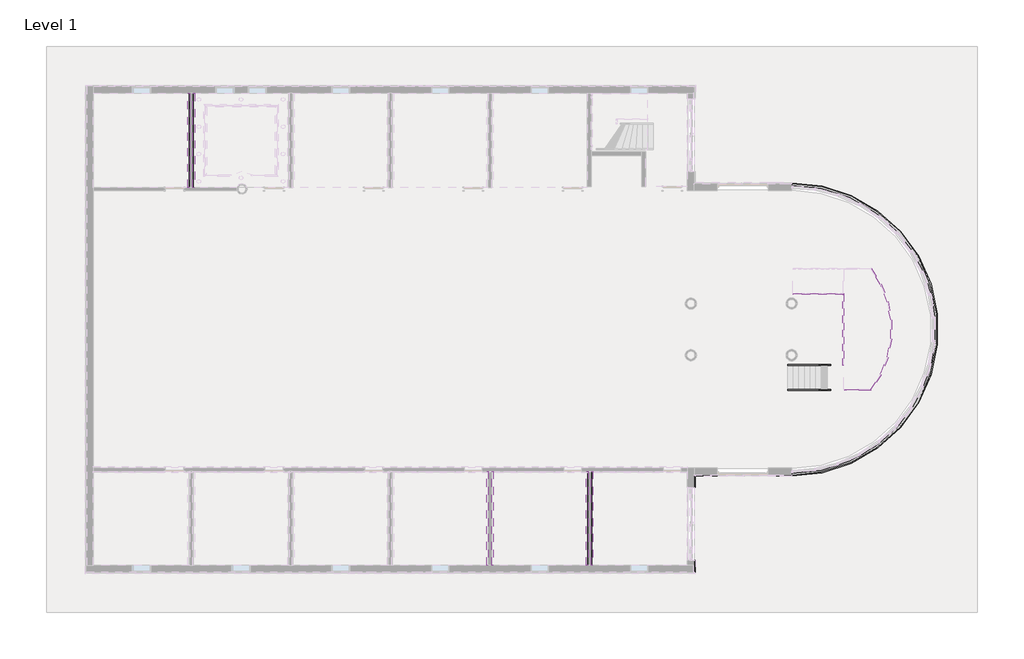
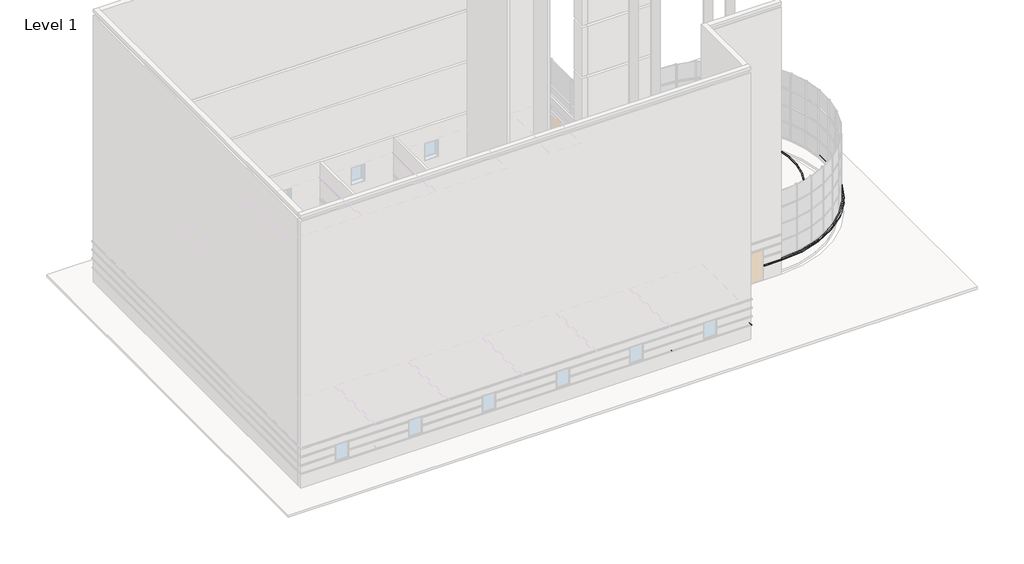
# One storey, part 18 of 20: 21 proxies, 6 members.
"""IFC4 building model written with IfcOpenShell, lengths in millimetres."""

from ifc_helpers import new_model, si_unit, point, frame, frame_2d, origin, place, context, project, spatial, polyline, circle_curve, trimmed, segment, composite_curve, outline, extrude, faceted_brep, element, save
from ifc_brep_helpers import plane_surface, cylinder_surface, revolved_surface, advanced_brep

model = new_model("IFC4")

# Units and contexts
model_context = context("Model", 3, world=origin())
ifc_project = project(units=[si_unit("LENGTHUNIT", "METRE", prefix="MILLI")], contexts=[model_context])

# Site, building, storey
site = spatial("IfcSite", under=ifc_project)
building = spatial("IfcBuilding", under=site)
storey = spatial("IfcBuildingStorey", under=building, Name="Level 1", Elevation=0.0)

# Proxies
placement = place(None, origin())
element("IfcBuildingElementProxy", 1, Name="Wall Sweeps", at=placement, inside=storey, context=model_context, shape_type="Brep", body=[
    faceted_brep([(12969.0589721, -14605.7351681, 1085.85), (12969.0589721, -14605.7351681, 1016.0), (13096.0589721, -14732.7351681, 1016.0), (13096.0589721, -14732.7351681, 1041.4), (13061.1339721, -14697.8101681, 1085.85), (12969.0589721, -14088.2101681, 1085.85), (13061.1339721, -14088.2101681, 1085.85), (13096.0589721, -14088.2101681, 1041.4), (13096.0589721, -14088.2101681, 1016.0), (13061.1339721, -14088.2101681, 1016.0), (12969.0589721, -14088.2101681, 1016.0), (12969.0589721, -14345.3851681, 1085.85), (12969.0589721, -14345.3851681, 1016.0)], [[[0, 1, 2, 3, 4]], [[5, 6, 7, 8, 9, 10]], [[0, 4, 6, 5, 11]], [[4, 3, 7, 6]], [[3, 2, 8, 7]], [[2, 1, 12, 10, 9, 8]], [[1, 0, 11, 5, 10, 12]]]),
    faceted_brep([(12969.0589721, -10430.6101681, 1085.85), (12969.0589721, -10430.6101681, 1016.0), (13061.1339721, -10430.6101681, 1016.0), (13096.0589721, -10430.6101681, 1016.0), (13096.0589721, -10430.6101681, 1041.4), (13061.1339721, -10430.6101681, 1085.85), (12969.0589721, -9728.9351681, 1085.85), (13061.1339721, -9821.0101681, 1085.85), (13096.0589721, -9855.9351681, 1041.4), (13096.0589721, -9855.9351681, 1016.0), (12969.0589721, -9728.9351681, 1016.0)], [[[0, 1, 2, 3, 4, 5]], [[6, 7, 8, 9, 10]], [[1, 0, 6, 10]], [[3, 2, 1, 10, 9]], [[4, 3, 9, 8]], [[5, 4, 8, 7]], [[0, 5, 7, 6]]]),
])
element("IfcBuildingElementProxy", 2, Name="Wall Sweeps", at=placement, inside=storey, context=model_context, shape_type="Brep", body=[
    faceted_brep([(12969.0589721, -9728.9351681, 1085.85), (12969.0589721, -9728.9351681, 1016.0), (13096.0589721, -9855.9351681, 1016.0), (13096.0589721, -9855.9351681, 1041.4), (13061.1339721, -9821.0101681, 1085.85), (14220.0089721, -9728.9351681, 1085.85), (14220.0089721, -9821.0101681, 1085.85), (14220.0089721, -9855.9351681, 1041.4), (14220.0089721, -9855.9351681, 1016.0), (14220.0089721, -9821.0101681, 1016.0), (14220.0089721, -9728.9351681, 1016.0), (13061.1339721, -9728.9351681, 1085.85), (13061.1339721, -9728.9351681, 1016.0)], [[[0, 1, 2, 3, 4]], [[5, 6, 7, 8, 9, 10]], [[0, 4, 6, 5, 11]], [[4, 3, 7, 6]], [[3, 2, 8, 7]], [[2, 1, 12, 10, 9, 8]], [[1, 0, 11, 5, 10, 12]]]),
    faceted_brep([(16760.0089721, -9728.9351681, 1085.85), (16760.0089721, -9728.9351681, 1016.0), (16760.0089721, -9821.0101681, 1016.0), (16760.0089721, -9855.9351681, 1016.0), (16760.0089721, -9855.9351681, 1041.4), (16760.0089721, -9821.0101681, 1085.85), (17937.9339721, -9728.9351681, 1085.85), (17937.9339721, -9821.0101681, 1085.85), (17937.9339721, -9855.9351681, 1041.4), (17937.9339721, -9855.9351681, 1016.0), (17937.9339721, -9821.0101681, 1016.0), (17937.9339721, -9728.9351681, 1016.0)], [[[0, 1, 2, 3, 4, 5]], [[6, 7, 8, 9, 10, 11]], [[1, 0, 6, 11]], [[3, 2, 1, 11, 10, 9]], [[4, 3, 9, 8]], [[5, 4, 8, 7]], [[0, 5, 7, 6]]]),
])
element("IfcBuildingElementProxy", 3, Name="Wall Sweeps", at=placement, inside=storey, context=model_context, shape_type="AdvancedBrep", body=[
    advanced_brep(
    [(17937.9339721, -9821.0101681, 1085.85), (17937.9339721, 4809.3898319, 1085.85), (17937.9339721, 4717.3148319, 1085.85), (17937.9339721, -9728.9351681, 1085.85), (17937.9339721, -9855.9351681, 1041.4), (17937.9339721, 4844.3148319, 1041.4), (17937.9339721, -9855.9351681, 1016.0), (17937.9339721, 4844.3148319, 1016.0), (17937.9339721, -9728.9351681, 1016.0), (17937.9339721, 4717.3148319, 1016.0), (17937.9339721, 4809.3898319, 1016.0), (17937.9339721, -9821.0101681, 1016.0)],
    [
        (0, 1, circle_curve(frame((17937.9339721, -2505.8101681, 1085.85), z_axis=(0.0, 0.0, 1.0), x_axis=(0.0, 1.0, 0.0)), 7315.2)),
        (1, 2),
        (2, 3, circle_curve(frame((17937.9339721, -2505.8101681, 1085.85), z_axis=(0.0, 0.0, -1.0), x_axis=(0.0, 1.0, 0.0)), 7223.125)),
        (3, 0),
        (4, 5, circle_curve(frame((17937.9339721, -2505.8101681, 1041.4), z_axis=(0.0, 0.0, 1.0), x_axis=(0.0, 1.0, 0.0)), 7350.125)),
        (5, 1),
        (0, 4),
        (6, 7, circle_curve(frame((17937.9339721, -2505.8101681, 1016.0), z_axis=(0.0, 0.0, 1.0), x_axis=(0.0, 1.0, 0.0)), 7350.125)),
        (7, 5),
        (4, 6),
        (8, 9, circle_curve(frame((17937.9339721, -2505.8101681, 1016.0), z_axis=(0.0, 0.0, 1.0), x_axis=(0.0, 1.0, 0.0)), 7223.125)),
        (9, 10),
        (10, 7),
        (6, 11),
        (11, 8),
        (2, 9),
        (8, 3),
    ],
    [
        plane_surface(frame((17937.9339721, -2505.8101681, 1085.85), z_axis=(0.0, 0.0, 1.0), x_axis=(0.0, 1.0, 0.0))),
        revolved_surface(polyline([(17937.9339721, 4809.3898319, 1085.85), (17937.9339721, 4844.3148319, 1041.4)]), (17937.9339721, -2505.8101681, 1016.0), (0.0, 0.0, -1.0)),
        cylinder_surface(frame((17937.9339721, -2505.8101681, 1016.0), z_axis=(0.0, 0.0, -1.0), x_axis=(0.0, 1.0, 0.0)), 7350.125),
        plane_surface(frame((17937.9339721, -2505.8101681, 1016.0), z_axis=(0.0, 0.0, -1.0), x_axis=(0.0, 1.0, 0.0))),
        revolved_surface(polyline([(17937.9339721, 4717.3148319, 1016.0), (17937.9339721, 4717.3148319, 1085.85)]), (17937.9339721, -2505.8101681, 1016.0), (0.0, 0.0, -1.0)),
        plane_surface(frame((17937.9339721, 5114.1898319, 1016.0), z_axis=(-1.0, 0.0, 0.0), x_axis=(0.0, 0.0, 1.0))),
        plane_surface(frame((17937.9339721, -10125.8101681, 1016.0), z_axis=(-1.0, 0.0, 0.0), x_axis=(0.0, 0.0, 1.0))),
    ],
    [
        (0, [[1, 2, 3, 4]]),
        (1, [[5, 6, -1, 7]]),
        (2, [[8, 9, -5, 10]]),
        (3, [[11, 12, 13, -8, 14, 15]]),
        (4, [[-3, 16, -11, 17]]),
        (5, [[-2, -6, -9, -13, -12, -16]]),
        (6, [[-17, -15, -14, -10, -7, -4]]),
    ],
),
])
element("IfcBuildingElementProxy", 4, Name="Wall Sweeps", at=placement, inside=storey, context=model_context, shape_type="SweptSolid", body=[
    extrude(outline(composite_curve([segment(polyline([(146.05, -12256.8451947), (0.0, -12256.8451947), (0.0, -12240.9701946), (25.4, -12240.9701946), (26.9875, -12242.5576946), (138.1125, -12242.5576946), (139.7, -12240.9701946), (184.15, -12240.9701946), (184.15, -12247.3201946), (178.4425393, -12249.7662491)]), True, "CONTINUOUS"), segment(trimmed(circle_curve(frame_2d((173.434375, -12253.6701946)), 6.35), [point((178.4425393, -12249.7662491))], [point((169.9015472, -12248.3936779))], True, "CARTESIAN"), True, "CONTINUOUS"), segment(polyline([(169.9015472, -12248.3936779), (159.8244174, -12255.2349707)]), True, "CONTINUOUS"), segment(trimmed(circle_curve(frame_2d((154.447453, -12247.3201946)), 9.5684601), [point((159.8244174, -12255.2349707))], [point((147.838329, -12254.2393642))], False, "CARTESIAN"), True, "CONTINUOUS"), segment(trimmed(circle_curve(frame_2d((147.2928122, -12254.8159494)), 0.79375), [point((147.838329, -12254.2393642))], [point((146.5164076, -12254.6509195))], True, "CARTESIAN"), True, "CONTINUOUS"), segment(polyline([(146.5164076, -12254.6509195), (146.05, -12256.8451947)]), True, "CONTINUOUS")], self_intersect=False)), frame((0.0, 4612.5398319, 0.0), z_axis=(0.0, 1.0, 0.0), x_axis=(0.0, 0.0, 1.0)), (0.0, 0.0, 1.0), 4721.225),
])
element("IfcBuildingElementProxy", 5, Name="Wall Sweeps", at=placement, inside=storey, context=model_context, shape_type="SweptSolid", body=[
    extrude(outline(composite_curve([segment(polyline([(146.05, -12069.5201944), (146.5164076, -12071.7144696)]), True, "CONTINUOUS"), segment(trimmed(circle_curve(frame_2d((147.2928122, -12071.5494397)), 0.79375), [point((146.5164076, -12071.7144696))], [point((147.838329, -12072.126025))], True, "CARTESIAN"), True, "CONTINUOUS"), segment(trimmed(circle_curve(frame_2d((154.447453, -12079.0451946)), 9.5684601), [point((147.838329, -12072.126025))], [point((159.8244174, -12071.1304184))], False, "CARTESIAN"), True, "CONTINUOUS"), segment(polyline([(159.8244174, -12071.1304184), (169.9015472, -12077.9717112)]), True, "CONTINUOUS"), segment(trimmed(circle_curve(frame_2d((173.434375, -12072.6951946)), 6.35), [point((169.9015472, -12077.9717112))], [point((178.4425393, -12076.59914))], True, "CARTESIAN"), True, "CONTINUOUS"), segment(polyline([(178.4425393, -12076.59914), (184.15, -12079.0451946), (184.15, -12085.3951946), (139.7, -12085.3951946), (138.1125, -12083.8076946), (26.9875, -12083.8076946), (25.4, -12085.3951946), (0.0, -12085.3951946), (0.0, -12069.5201944), (146.05, -12069.5201944)]), True, "CONTINUOUS")], self_intersect=False)), frame((0.0, 4612.5398319, 0.0), z_axis=(0.0, 1.0, 0.0), x_axis=(0.0, 0.0, 1.0)), (0.0, 0.0, 1.0), 4721.225),
])
element("IfcBuildingElementProxy", 6, Name="Wall Sweeps", at=placement, inside=storey, context=model_context, shape_type="SweptSolid", body=[
    extrude(outline(composite_curve([segment(polyline([(781.05, -12242.5576946), (882.65, -12242.5576946), (884.2375, -12240.9701946), (901.7, -12240.9701946), (901.7, -12261.6076946), (882.65, -12261.6076946), (882.65, -12259.2264446)]), True, "CONTINUOUS"), segment(trimmed(circle_curve(frame_2d((880.26875, -12254.2063288)), 5.55625), [point((882.65, -12259.2264446))], [point((876.3398879, -12258.1351908))], False, "CARTESIAN"), True, "CONTINUOUS"), segment(trimmed(circle_curve(frame_2d((867.5864328, -12265.9220138)), 11.7156984), [point((876.3398879, -12258.1351908))], [point((867.56875, -12254.2063288))], True, "CARTESIAN"), True, "CONTINUOUS"), segment(polyline([(867.56875, -12254.2063288), (867.56875, -12252.0826946), (796.13125, -12252.0826946), (796.13125, -12254.2063288)]), True, "CONTINUOUS"), segment(trimmed(circle_curve(frame_2d((796.1135672, -12265.9220138)), 11.7156984), [point((796.13125, -12254.2063288))], [point((787.3601121, -12258.1351908))], True, "CARTESIAN"), True, "CONTINUOUS"), segment(trimmed(circle_curve(frame_2d((783.43125, -12254.2063288)), 5.55625), [point((787.3601121, -12258.1351908))], [point((781.05, -12259.2264446))], False, "CARTESIAN"), True, "CONTINUOUS"), segment(polyline([(781.05, -12259.2264446), (781.05, -12261.6076946), (762.0, -12261.6076946), (762.0, -12240.9701946), (779.4625, -12240.9701946), (781.05, -12242.5576946)]), True, "CONTINUOUS")], self_intersect=False)), frame((0.0, 4612.5398319, 0.0), z_axis=(0.0, 1.0, 0.0), x_axis=(0.0, 0.0, 1.0)), (0.0, 0.0, 1.0), 4721.225),
])
element("IfcBuildingElementProxy", 7, Name="Wall Sweeps", at=placement, inside=storey, context=model_context, shape_type="SweptSolid", body=[
    extrude(outline(composite_curve([segment(polyline([(781.05, -12083.8076946), (779.4625, -12085.3951946), (762.0, -12085.3951946), (762.0, -12064.7576946), (781.05, -12064.7576946), (781.05, -12067.1389446)]), True, "CONTINUOUS"), segment(trimmed(circle_curve(frame_2d((783.43125, -12072.1590603)), 5.55625), [point((781.05, -12067.1389446))], [point((787.3601121, -12068.2301983))], False, "CARTESIAN"), True, "CONTINUOUS"), segment(trimmed(circle_curve(frame_2d((796.1135672, -12060.4433753)), 11.7156984), [point((787.3601121, -12068.2301983))], [point((796.13125, -12072.1590603))], True, "CARTESIAN"), True, "CONTINUOUS"), segment(polyline([(796.13125, -12072.1590603), (796.13125, -12074.2826946), (867.56875, -12074.2826946), (867.56875, -12072.1590603)]), True, "CONTINUOUS"), segment(trimmed(circle_curve(frame_2d((867.5864328, -12060.4433753)), 11.7156984), [point((867.56875, -12072.1590603))], [point((876.3398879, -12068.2301983))], True, "CARTESIAN"), True, "CONTINUOUS"), segment(trimmed(circle_curve(frame_2d((880.26875, -12072.1590603)), 5.55625), [point((876.3398879, -12068.2301983))], [point((882.65, -12067.1389446))], False, "CARTESIAN"), True, "CONTINUOUS"), segment(polyline([(882.65, -12067.1389446), (882.65, -12064.7576946), (901.7, -12064.7576946), (901.7, -12085.3951946), (884.2375, -12085.3951946), (882.65, -12083.8076946), (781.05, -12083.8076946)]), True, "CONTINUOUS")], self_intersect=False)), frame((0.0, 4612.5398319, 0.0), z_axis=(0.0, 1.0, 0.0), x_axis=(0.0, 0.0, 1.0)), (0.0, 0.0, 1.0), 4721.225),
])
element("IfcBuildingElementProxy", 8, Name="Wall Sweeps", at=placement, inside=storey, context=model_context, shape_type="SweptSolid", body=[
    extrude(outline(composite_curve([segment(polyline([(2438.399973, -12309.1633571), (2438.399973, -12329.8701946), (2431.2481102, -12329.8701946), (2431.2481102, -12327.3548352)]), True, "CONTINUOUS"), segment(trimmed(circle_curve(frame_2d((2423.9641253, -12331.1893356)), 8.2316359), [point((2431.2481102, -12327.3548352))], [point((2427.7986257, -12323.9053507))], True, "CARTESIAN"), True, "CONTINUOUS"), segment(trimmed(circle_curve(frame_2d((2429.6314026, -12316.0499845)), 8.0663405), [point((2427.7986257, -12323.9053507))], [point((2421.6202934, -12315.1076578))], False, "CARTESIAN"), True, "CONTINUOUS"), segment(polyline([(2421.6202934, -12315.1076578), (2421.6202934, -12312.339094), (2416.1698146, -12312.339094)]), True, "CONTINUOUS"), segment(trimmed(circle_curve(frame_2d((2417.0589994, -12290.5017471)), 21.8554426), [point((2416.1698146, -12312.339094))], [point((2396.8442936, -12298.8099384))], False, "CARTESIAN"), True, "CONTINUOUS"), segment(polyline([(2396.8442936, -12298.8099384), (2392.1194168, -12291.5677091)]), True, "CONTINUOUS"), segment(trimmed(circle_curve(frame_2d((2350.2346746, -12313.0198493)), 47.0587499), [point((2392.1194168, -12291.5677091))], [point((2353.4554653, -12266.0714473))], True, "CARTESIAN"), True, "CONTINUOUS"), segment(polyline([(2353.4554653, -12266.0714473), (2353.4554653, -12262.8440724), (2348.4207604, -12262.8440724), (2348.4207604, -12259.2552315)]), True, "CONTINUOUS"), segment(trimmed(circle_curve(frame_2d((2347.9606001, -12248.767665)), 10.4976568), [point((2348.4207604, -12259.2552315))], [point((2338.0157037, -12252.1291877))], False, "CARTESIAN"), True, "CONTINUOUS"), segment(polyline([(2338.0157037, -12252.1291877), (2333.7297498, -12252.1291877)]), True, "CONTINUOUS"), segment(trimmed(circle_curve(frame_2d((2327.2589154, -12255.4064811)), 7.2534372), [point((2333.7297498, -12252.1291877))], [point((2327.275, -12248.1530618))], True, "CARTESIAN"), True, "CONTINUOUS"), segment(polyline([(2327.275, -12248.1530618), (2327.275, -12240.9701946), (2351.8919306, -12240.9701946), (2438.399973, -12309.1633571)]), True, "CONTINUOUS")], self_intersect=False)), frame((0.0, 4612.5398319, 0.0), z_axis=(0.0, 1.0, 0.0), x_axis=(0.0, 0.0, 1.0)), (0.0, 0.0, 1.0), 4721.225),
])
element("IfcBuildingElementProxy", 9, Name="Wall Sweeps", at=placement, inside=storey, context=model_context, shape_type="SweptSolid", body=[
    extrude(outline(composite_curve([segment(polyline([(2438.399973, -12017.202032), (2351.8919306, -12085.3951946), (2327.275, -12085.3951946), (2327.275, -12078.2123274)]), True, "CONTINUOUS"), segment(trimmed(circle_curve(frame_2d((2327.2589154, -12070.958908)), 7.2534372), [point((2327.275, -12078.2123274))], [point((2333.7297498, -12074.2362015))], True, "CARTESIAN"), True, "CONTINUOUS"), segment(polyline([(2333.7297498, -12074.2362015), (2338.0157037, -12074.2362015)]), True, "CONTINUOUS"), segment(trimmed(circle_curve(frame_2d((2347.9606001, -12077.5977241)), 10.4976568), [point((2338.0157037, -12074.2362015))], [point((2348.4207604, -12067.1101577))], False, "CARTESIAN"), True, "CONTINUOUS"), segment(polyline([(2348.4207604, -12067.1101577), (2348.4207604, -12063.5213168), (2353.4554653, -12063.5213168), (2353.4554653, -12060.2939418)]), True, "CONTINUOUS"), segment(trimmed(circle_curve(frame_2d((2350.2346746, -12013.3455399)), 47.0587499), [point((2353.4554653, -12060.2939418))], [point((2392.1194168, -12034.79768))], True, "CARTESIAN"), True, "CONTINUOUS"), segment(polyline([(2392.1194168, -12034.79768), (2396.8442936, -12027.5554507)]), True, "CONTINUOUS"), segment(trimmed(circle_curve(frame_2d((2417.0589994, -12035.863642)), 21.8554426), [point((2396.8442936, -12027.5554507))], [point((2416.1698146, -12014.0262951))], False, "CARTESIAN"), True, "CONTINUOUS"), segment(polyline([(2416.1698146, -12014.0262951), (2421.6202934, -12014.0262951), (2421.6202934, -12011.2577313)]), True, "CONTINUOUS"), segment(trimmed(circle_curve(frame_2d((2429.6314026, -12010.3154046)), 8.0663405), [point((2421.6202934, -12011.2577313))], [point((2427.7986257, -12002.4600384))], False, "CARTESIAN"), True, "CONTINUOUS"), segment(trimmed(circle_curve(frame_2d((2423.9641253, -11995.1760535)), 8.2316359), [point((2427.7986257, -12002.4600384))], [point((2431.2481102, -11999.010554))], True, "CARTESIAN"), True, "CONTINUOUS"), segment(polyline([(2431.2481102, -11999.010554), (2431.2481102, -11996.4951946), (2438.399973, -11996.4951946), (2438.399973, -12017.202032)]), True, "CONTINUOUS")], self_intersect=False)), frame((0.0, 4612.5398319, 0.0), z_axis=(0.0, 1.0, 0.0), x_axis=(0.0, 0.0, 1.0)), (0.0, 0.0, 1.0), 4721.225),
])
element("IfcBuildingElementProxy", 10, Name="Wall Sweeps", at=placement, inside=storey, context=model_context, shape_type="SweptSolid", body=[
    extrude(outline(composite_curve([segment(polyline([(146.05, 2719.6298053), (0.0, 2719.6298053), (0.0, 2735.5048054), (25.4, 2735.5048054), (26.9875, 2733.9173054), (138.1125, 2733.9173054), (139.7, 2735.5048054), (184.15, 2735.5048054), (184.15, 2729.1548054), (178.4425393, 2726.7087509)]), True, "CONTINUOUS"), segment(trimmed(circle_curve(frame_2d((173.434375, 2722.8048054)), 6.35), [point((178.4425393, 2726.7087509))], [point((169.9015472, 2728.0813221))], True, "CARTESIAN"), True, "CONTINUOUS"), segment(polyline([(169.9015472, 2728.0813221), (159.8244174, 2721.2400293)]), True, "CONTINUOUS"), segment(trimmed(circle_curve(frame_2d((154.447453, 2729.1548054)), 9.5684601), [point((159.8244174, 2721.2400293))], [point((147.838329, 2722.2356358))], False, "CARTESIAN"), True, "CONTINUOUS"), segment(trimmed(circle_curve(frame_2d((147.2928122, 2721.6590506)), 0.79375), [point((147.838329, 2722.2356358))], [point((146.5164076, 2721.8240805))], True, "CARTESIAN"), True, "CONTINUOUS"), segment(polyline([(146.5164076, 2721.8240805), (146.05, 2719.6298053)]), True, "CONTINUOUS")], self_intersect=False)), frame((0.0, -14345.3851681, 0.0), z_axis=(0.0, 1.0, 0.0), x_axis=(0.0, 0.0, 1.0)), (0.0, 0.0, 1.0), 4721.225),
])
element("IfcBuildingElementProxy", 11, Name="Wall Sweeps", at=placement, inside=storey, context=model_context, shape_type="SweptSolid", body=[
    extrude(outline(composite_curve([segment(polyline([(146.05, 2906.9548056), (146.5164076, 2904.7605304)]), True, "CONTINUOUS"), segment(trimmed(circle_curve(frame_2d((147.2928122, 2904.9255603)), 0.79375), [point((146.5164076, 2904.7605304))], [point((147.838329, 2904.348975))], True, "CARTESIAN"), True, "CONTINUOUS"), segment(trimmed(circle_curve(frame_2d((154.447453, 2897.4298054)), 9.5684601), [point((147.838329, 2904.348975))], [point((159.8244174, 2905.3445816))], False, "CARTESIAN"), True, "CONTINUOUS"), segment(polyline([(159.8244174, 2905.3445816), (169.9015472, 2898.5032888)]), True, "CONTINUOUS"), segment(trimmed(circle_curve(frame_2d((173.434375, 2903.7798054)), 6.35), [point((169.9015472, 2898.5032888))], [point((178.4425393, 2899.87586))], True, "CARTESIAN"), True, "CONTINUOUS"), segment(polyline([(178.4425393, 2899.87586), (184.15, 2897.4298054), (184.15, 2891.0798054), (139.7, 2891.0798054), (138.1125, 2892.6673054), (26.9875, 2892.6673054), (25.4, 2891.0798054), (0.0, 2891.0798054), (0.0, 2906.9548056), (146.05, 2906.9548056)]), True, "CONTINUOUS")], self_intersect=False)), frame((0.0, -14345.3851681, 0.0), z_axis=(0.0, 1.0, 0.0), x_axis=(0.0, 0.0, 1.0)), (0.0, 0.0, 1.0), 4721.225),
])
element("IfcBuildingElementProxy", 12, Name="Wall Sweeps", at=placement, inside=storey, context=model_context, shape_type="SweptSolid", body=[
    extrude(outline(composite_curve([segment(polyline([(781.05, 2733.9173054), (882.65, 2733.9173054), (884.2375, 2735.5048054), (901.7, 2735.5048054), (901.7, 2714.8673054), (882.65, 2714.8673054), (882.65, 2717.2485554)]), True, "CONTINUOUS"), segment(trimmed(circle_curve(frame_2d((880.26875, 2722.2686712)), 5.55625), [point((882.65, 2717.2485554))], [point((876.3398879, 2718.3398092))], False, "CARTESIAN"), True, "CONTINUOUS"), segment(trimmed(circle_curve(frame_2d((867.5864328, 2710.5529862)), 11.7156984), [point((876.3398879, 2718.3398092))], [point((867.56875, 2722.2686712))], True, "CARTESIAN"), True, "CONTINUOUS"), segment(polyline([(867.56875, 2722.2686712), (867.56875, 2724.3923054), (796.13125, 2724.3923054), (796.13125, 2722.2686712)]), True, "CONTINUOUS"), segment(trimmed(circle_curve(frame_2d((796.1135672, 2710.5529862)), 11.7156984), [point((796.13125, 2722.2686712))], [point((787.3601121, 2718.3398092))], True, "CARTESIAN"), True, "CONTINUOUS"), segment(trimmed(circle_curve(frame_2d((783.43125, 2722.2686712)), 5.55625), [point((787.3601121, 2718.3398092))], [point((781.05, 2717.2485554))], False, "CARTESIAN"), True, "CONTINUOUS"), segment(polyline([(781.05, 2717.2485554), (781.05, 2714.8673054), (762.0, 2714.8673054), (762.0, 2735.5048054), (779.4625, 2735.5048054), (781.05, 2733.9173054)]), True, "CONTINUOUS")], self_intersect=False)), frame((0.0, -14345.3851681, 0.0), z_axis=(0.0, 1.0, 0.0), x_axis=(0.0, 0.0, 1.0)), (0.0, 0.0, 1.0), 4721.225),
])
element("IfcBuildingElementProxy", 13, Name="Wall Sweeps", at=placement, inside=storey, context=model_context, shape_type="SweptSolid", body=[
    extrude(outline(composite_curve([segment(polyline([(781.05, 2892.6673054), (779.4625, 2891.0798054), (762.0, 2891.0798054), (762.0, 2911.7173054), (781.05, 2911.7173054), (781.05, 2909.3360554)]), True, "CONTINUOUS"), segment(trimmed(circle_curve(frame_2d((783.43125, 2904.3159397)), 5.55625), [point((781.05, 2909.3360554))], [point((787.3601121, 2908.2448017))], False, "CARTESIAN"), True, "CONTINUOUS"), segment(trimmed(circle_curve(frame_2d((796.1135672, 2916.0316247)), 11.7156984), [point((787.3601121, 2908.2448017))], [point((796.13125, 2904.3159397))], True, "CARTESIAN"), True, "CONTINUOUS"), segment(polyline([(796.13125, 2904.3159397), (796.13125, 2902.1923054), (867.56875, 2902.1923054), (867.56875, 2904.3159397)]), True, "CONTINUOUS"), segment(trimmed(circle_curve(frame_2d((867.5864328, 2916.0316247)), 11.7156984), [point((867.56875, 2904.3159397))], [point((876.3398879, 2908.2448017))], True, "CARTESIAN"), True, "CONTINUOUS"), segment(trimmed(circle_curve(frame_2d((880.26875, 2904.3159397)), 5.55625), [point((876.3398879, 2908.2448017))], [point((882.65, 2909.3360554))], False, "CARTESIAN"), True, "CONTINUOUS"), segment(polyline([(882.65, 2909.3360554), (882.65, 2911.7173054), (901.7, 2911.7173054), (901.7, 2891.0798054), (884.2375, 2891.0798054), (882.65, 2892.6673054), (781.05, 2892.6673054)]), True, "CONTINUOUS")], self_intersect=False)), frame((0.0, -14345.3851681, 0.0), z_axis=(0.0, 1.0, 0.0), x_axis=(0.0, 0.0, 1.0)), (0.0, 0.0, 1.0), 4721.225),
])
element("IfcBuildingElementProxy", 14, Name="Wall Sweeps", at=placement, inside=storey, context=model_context, shape_type="SweptSolid", body=[
    extrude(outline(composite_curve([segment(polyline([(2438.399973, 2667.3116429), (2438.399973, 2646.6048054), (2431.2481102, 2646.6048054), (2431.2481102, 2649.1201648)]), True, "CONTINUOUS"), segment(trimmed(circle_curve(frame_2d((2423.9641253, 2645.2856644)), 8.2316359), [point((2431.2481102, 2649.1201648))], [point((2427.7986257, 2652.5696493))], True, "CARTESIAN"), True, "CONTINUOUS"), segment(trimmed(circle_curve(frame_2d((2429.6314026, 2660.4250155)), 8.0663405), [point((2427.7986257, 2652.5696493))], [point((2421.6202934, 2661.3673422))], False, "CARTESIAN"), True, "CONTINUOUS"), segment(polyline([(2421.6202934, 2661.3673422), (2421.6202934, 2664.135906), (2416.1698146, 2664.135906)]), True, "CONTINUOUS"), segment(trimmed(circle_curve(frame_2d((2417.0589994, 2685.9732529)), 21.8554426), [point((2416.1698146, 2664.135906))], [point((2396.8442936, 2677.6650616))], False, "CARTESIAN"), True, "CONTINUOUS"), segment(polyline([(2396.8442936, 2677.6650616), (2392.1194168, 2684.9072909)]), True, "CONTINUOUS"), segment(trimmed(circle_curve(frame_2d((2350.2346746, 2663.4551507)), 47.0587499), [point((2392.1194168, 2684.9072909))], [point((2353.4554653, 2710.4035527))], True, "CARTESIAN"), True, "CONTINUOUS"), segment(polyline([(2353.4554653, 2710.4035527), (2353.4554653, 2713.6309276), (2348.4207604, 2713.6309276), (2348.4207604, 2717.2197685)]), True, "CONTINUOUS"), segment(trimmed(circle_curve(frame_2d((2347.9606001, 2727.707335)), 10.4976568), [point((2348.4207604, 2717.2197685))], [point((2338.0157037, 2724.3458123))], False, "CARTESIAN"), True, "CONTINUOUS"), segment(polyline([(2338.0157037, 2724.3458123), (2333.7297498, 2724.3458123)]), True, "CONTINUOUS"), segment(trimmed(circle_curve(frame_2d((2327.2589154, 2721.0685189)), 7.2534372), [point((2333.7297498, 2724.3458123))], [point((2327.275, 2728.3219382))], True, "CARTESIAN"), True, "CONTINUOUS"), segment(polyline([(2327.275, 2728.3219382), (2327.275, 2735.5048054), (2351.8919306, 2735.5048054), (2438.399973, 2667.3116429)]), True, "CONTINUOUS")], self_intersect=False)), frame((0.0, -14345.3851681, 0.0), z_axis=(0.0, 1.0, 0.0), x_axis=(0.0, 0.0, 1.0)), (0.0, 0.0, 1.0), 4721.225),
])
element("IfcBuildingElementProxy", 15, Name="Wall Sweeps", at=placement, inside=storey, context=model_context, shape_type="SweptSolid", body=[
    extrude(outline(composite_curve([segment(polyline([(2438.399973, 2959.272968), (2351.8919306, 2891.0798054), (2327.275, 2891.0798054), (2327.275, 2898.2626726)]), True, "CONTINUOUS"), segment(trimmed(circle_curve(frame_2d((2327.2589154, 2905.516092)), 7.2534372), [point((2327.275, 2898.2626726))], [point((2333.7297498, 2902.2387985))], True, "CARTESIAN"), True, "CONTINUOUS"), segment(polyline([(2333.7297498, 2902.2387985), (2338.0157037, 2902.2387985)]), True, "CONTINUOUS"), segment(trimmed(circle_curve(frame_2d((2347.9606001, 2898.8772759)), 10.4976568), [point((2338.0157037, 2902.2387985))], [point((2348.4207604, 2909.3648423))], False, "CARTESIAN"), True, "CONTINUOUS"), segment(polyline([(2348.4207604, 2909.3648423), (2348.4207604, 2912.9536832), (2353.4554653, 2912.9536832), (2353.4554653, 2916.1810582)]), True, "CONTINUOUS"), segment(trimmed(circle_curve(frame_2d((2350.2346746, 2963.1294601)), 47.0587499), [point((2353.4554653, 2916.1810582))], [point((2392.1194168, 2941.67732))], True, "CARTESIAN"), True, "CONTINUOUS"), segment(polyline([(2392.1194168, 2941.67732), (2396.8442936, 2948.9195493)]), True, "CONTINUOUS"), segment(trimmed(circle_curve(frame_2d((2417.0589994, 2940.611358)), 21.8554426), [point((2396.8442936, 2948.9195493))], [point((2416.1698146, 2962.4487049))], False, "CARTESIAN"), True, "CONTINUOUS"), segment(polyline([(2416.1698146, 2962.4487049), (2421.6202934, 2962.4487049), (2421.6202934, 2965.2172687)]), True, "CONTINUOUS"), segment(trimmed(circle_curve(frame_2d((2429.6314026, 2966.1595954)), 8.0663405), [point((2421.6202934, 2965.2172687))], [point((2427.7986257, 2974.0149616))], False, "CARTESIAN"), True, "CONTINUOUS"), segment(trimmed(circle_curve(frame_2d((2423.9641253, 2981.2989465)), 8.2316359), [point((2427.7986257, 2974.0149616))], [point((2431.2481102, 2977.464446))], True, "CARTESIAN"), True, "CONTINUOUS"), segment(polyline([(2431.2481102, 2977.464446), (2431.2481102, 2979.9798054), (2438.399973, 2979.9798054), (2438.399973, 2959.272968)]), True, "CONTINUOUS")], self_intersect=False)), frame((0.0, -14345.3851681, 0.0), z_axis=(0.0, 1.0, 0.0), x_axis=(0.0, 0.0, 1.0)), (0.0, 0.0, 1.0), 4721.225),
])
element("IfcBuildingElementProxy", 16, Name="Wall Sweeps", at=placement, inside=storey, context=model_context, shape_type="SweptSolid", body=[
    extrude(outline(composite_curve([segment(polyline([(146.05, 7711.7881387), (0.0, 7711.7881387), (0.0, 7727.6631388), (25.4, 7727.6631388), (26.9875, 7726.0756388), (138.1125, 7726.0756388), (139.7, 7727.6631388), (184.15, 7727.6631388), (184.15, 7721.3131388), (178.4425393, 7718.8670842)]), True, "CONTINUOUS"), segment(trimmed(circle_curve(frame_2d((173.434375, 7714.9631388)), 6.35), [point((178.4425393, 7718.8670842))], [point((169.9015472, 7720.2396554))], True, "CARTESIAN"), True, "CONTINUOUS"), segment(polyline([(169.9015472, 7720.2396554), (159.8244174, 7713.3983626)]), True, "CONTINUOUS"), segment(trimmed(circle_curve(frame_2d((154.447453, 7721.3131388)), 9.5684601), [point((159.8244174, 7713.3983626))], [point((147.838329, 7714.3939692))], False, "CARTESIAN"), True, "CONTINUOUS"), segment(trimmed(circle_curve(frame_2d((147.2928122, 7713.8173839)), 0.79375), [point((147.838329, 7714.3939692))], [point((146.5164076, 7713.9824138))], True, "CARTESIAN"), True, "CONTINUOUS"), segment(polyline([(146.5164076, 7713.9824138), (146.05, 7711.7881387)]), True, "CONTINUOUS")], self_intersect=False)), frame((0.0, -14345.3851681, 0.0), z_axis=(0.0, 1.0, 0.0), x_axis=(0.0, 0.0, 1.0)), (0.0, 0.0, 1.0), 4721.225),
])
element("IfcBuildingElementProxy", 17, Name="Wall Sweeps", at=placement, inside=storey, context=model_context, shape_type="SweptSolid", body=[
    extrude(outline(composite_curve([segment(polyline([(146.05, 7899.1131389), (146.5164076, 7896.9188637)]), True, "CONTINUOUS"), segment(trimmed(circle_curve(frame_2d((147.2928122, 7897.0838936)), 0.79375), [point((146.5164076, 7896.9188637))], [point((147.838329, 7896.5073084))], True, "CARTESIAN"), True, "CONTINUOUS"), segment(trimmed(circle_curve(frame_2d((154.447453, 7889.5881388)), 9.5684601), [point((147.838329, 7896.5073084))], [point((159.8244174, 7897.502915))], False, "CARTESIAN"), True, "CONTINUOUS"), segment(polyline([(159.8244174, 7897.502915), (169.9015472, 7890.6616221)]), True, "CONTINUOUS"), segment(trimmed(circle_curve(frame_2d((173.434375, 7895.9381388)), 6.35), [point((169.9015472, 7890.6616221))], [point((178.4425393, 7892.0341933))], True, "CARTESIAN"), True, "CONTINUOUS"), segment(polyline([(178.4425393, 7892.0341933), (184.15, 7889.5881388), (184.15, 7883.2381388), (139.7, 7883.2381388), (138.1125, 7884.8256388), (26.9875, 7884.8256388), (25.4, 7883.2381388), (0.0, 7883.2381388), (0.0, 7899.1131389), (146.05, 7899.1131389)]), True, "CONTINUOUS")], self_intersect=False)), frame((0.0, -14345.3851681, 0.0), z_axis=(0.0, 1.0, 0.0), x_axis=(0.0, 0.0, 1.0)), (0.0, 0.0, 1.0), 4721.225),
])
element("IfcBuildingElementProxy", 18, Name="Wall Sweeps", at=placement, inside=storey, context=model_context, shape_type="SweptSolid", body=[
    extrude(outline(composite_curve([segment(polyline([(781.05, 7726.0756388), (882.65, 7726.0756388), (884.2375, 7727.6631388), (901.7, 7727.6631388), (901.7, 7707.0256388), (882.65, 7707.0256388), (882.65, 7709.4068888)]), True, "CONTINUOUS"), segment(trimmed(circle_curve(frame_2d((880.26875, 7714.4270046)), 5.55625), [point((882.65, 7709.4068888))], [point((876.3398879, 7710.4981425))], False, "CARTESIAN"), True, "CONTINUOUS"), segment(trimmed(circle_curve(frame_2d((867.5864328, 7702.7113195)), 11.7156984), [point((876.3398879, 7710.4981425))], [point((867.56875, 7714.4270046))], True, "CARTESIAN"), True, "CONTINUOUS"), segment(polyline([(867.56875, 7714.4270046), (867.56875, 7716.5506388), (796.13125, 7716.5506388), (796.13125, 7714.4270046)]), True, "CONTINUOUS"), segment(trimmed(circle_curve(frame_2d((796.1135672, 7702.7113195)), 11.7156984), [point((796.13125, 7714.4270046))], [point((787.3601121, 7710.4981425))], True, "CARTESIAN"), True, "CONTINUOUS"), segment(trimmed(circle_curve(frame_2d((783.43125, 7714.4270046)), 5.55625), [point((787.3601121, 7710.4981425))], [point((781.05, 7709.4068888))], False, "CARTESIAN"), True, "CONTINUOUS"), segment(polyline([(781.05, 7709.4068888), (781.05, 7707.0256388), (762.0, 7707.0256388), (762.0, 7727.6631388), (779.4625, 7727.6631388), (781.05, 7726.0756388)]), True, "CONTINUOUS")], self_intersect=False)), frame((0.0, -14345.3851681, 0.0), z_axis=(0.0, 1.0, 0.0), x_axis=(0.0, 0.0, 1.0)), (0.0, 0.0, 1.0), 4721.225),
])
element("IfcBuildingElementProxy", 19, Name="Wall Sweeps", at=placement, inside=storey, context=model_context, shape_type="SweptSolid", body=[
    extrude(outline(composite_curve([segment(polyline([(781.05, 7884.8256388), (779.4625, 7883.2381388), (762.0, 7883.2381388), (762.0, 7903.8756388), (781.05, 7903.8756388), (781.05, 7901.4943888)]), True, "CONTINUOUS"), segment(trimmed(circle_curve(frame_2d((783.43125, 7896.474273)), 5.55625), [point((781.05, 7901.4943888))], [point((787.3601121, 7900.403135))], False, "CARTESIAN"), True, "CONTINUOUS"), segment(trimmed(circle_curve(frame_2d((796.1135672, 7908.189958)), 11.7156984), [point((787.3601121, 7900.403135))], [point((796.13125, 7896.474273))], True, "CARTESIAN"), True, "CONTINUOUS"), segment(polyline([(796.13125, 7896.474273), (796.13125, 7894.3506388), (867.56875, 7894.3506388), (867.56875, 7896.474273)]), True, "CONTINUOUS"), segment(trimmed(circle_curve(frame_2d((867.5864328, 7908.189958)), 11.7156984), [point((867.56875, 7896.474273))], [point((876.3398879, 7900.403135))], True, "CARTESIAN"), True, "CONTINUOUS"), segment(trimmed(circle_curve(frame_2d((880.26875, 7896.474273)), 5.55625), [point((876.3398879, 7900.403135))], [point((882.65, 7901.4943888))], False, "CARTESIAN"), True, "CONTINUOUS"), segment(polyline([(882.65, 7901.4943888), (882.65, 7903.8756388), (901.7, 7903.8756388), (901.7, 7883.2381388), (884.2375, 7883.2381388), (882.65, 7884.8256388), (781.05, 7884.8256388)]), True, "CONTINUOUS")], self_intersect=False)), frame((0.0, -14345.3851681, 0.0), z_axis=(0.0, 1.0, 0.0), x_axis=(0.0, 0.0, 1.0)), (0.0, 0.0, 1.0), 4721.225),
])
element("IfcBuildingElementProxy", 20, Name="Wall Sweeps", at=placement, inside=storey, context=model_context, shape_type="SweptSolid", body=[
    extrude(outline(composite_curve([segment(polyline([(2438.399973, 7659.4699762), (2438.399973, 7638.7631388), (2431.2481102, 7638.7631388), (2431.2481102, 7641.2784982)]), True, "CONTINUOUS"), segment(trimmed(circle_curve(frame_2d((2423.9641253, 7637.4439977)), 8.2316359), [point((2431.2481102, 7641.2784982))], [point((2427.7986257, 7644.7279826))], True, "CARTESIAN"), True, "CONTINUOUS"), segment(trimmed(circle_curve(frame_2d((2429.6314026, 7652.5833488)), 8.0663405), [point((2427.7986257, 7644.7279826))], [point((2421.6202934, 7653.5256755))], False, "CARTESIAN"), True, "CONTINUOUS"), segment(polyline([(2421.6202934, 7653.5256755), (2421.6202934, 7656.2942393), (2416.1698146, 7656.2942393)]), True, "CONTINUOUS"), segment(trimmed(circle_curve(frame_2d((2417.0589994, 7678.1315862)), 21.8554426), [point((2416.1698146, 7656.2942393))], [point((2396.8442936, 7669.8233949))], False, "CARTESIAN"), True, "CONTINUOUS"), segment(polyline([(2396.8442936, 7669.8233949), (2392.1194168, 7677.0656242)]), True, "CONTINUOUS"), segment(trimmed(circle_curve(frame_2d((2350.2346746, 7655.6134841)), 47.0587499), [point((2392.1194168, 7677.0656242))], [point((2353.4554653, 7702.5618861))], True, "CARTESIAN"), True, "CONTINUOUS"), segment(polyline([(2353.4554653, 7702.5618861), (2353.4554653, 7705.789261), (2348.4207604, 7705.789261), (2348.4207604, 7709.3781019)]), True, "CONTINUOUS"), segment(trimmed(circle_curve(frame_2d((2347.9606001, 7719.8656683)), 10.4976568), [point((2348.4207604, 7709.3781019))], [point((2338.0157037, 7716.5041457))], False, "CARTESIAN"), True, "CONTINUOUS"), segment(polyline([(2338.0157037, 7716.5041457), (2333.7297498, 7716.5041457)]), True, "CONTINUOUS"), segment(trimmed(circle_curve(frame_2d((2327.2589154, 7713.2268522)), 7.2534372), [point((2333.7297498, 7716.5041457))], [point((2327.275, 7720.4802716))], True, "CARTESIAN"), True, "CONTINUOUS"), segment(polyline([(2327.275, 7720.4802716), (2327.275, 7727.6631388), (2351.8919306, 7727.6631388), (2438.399973, 7659.4699762)]), True, "CONTINUOUS")], self_intersect=False)), frame((0.0, -14345.3851681, 0.0), z_axis=(0.0, 1.0, 0.0), x_axis=(0.0, 0.0, 1.0)), (0.0, 0.0, 1.0), 4721.225),
])
element("IfcBuildingElementProxy", 21, Name="Wall Sweeps", at=placement, inside=storey, context=model_context, shape_type="SweptSolid", body=[
    extrude(outline(composite_curve([segment(polyline([(2438.399973, 7951.4313013), (2351.8919306, 7883.2381388), (2327.275, 7883.2381388), (2327.275, 7890.421006)]), True, "CONTINUOUS"), segment(trimmed(circle_curve(frame_2d((2327.2589154, 7897.6744253)), 7.2534372), [point((2327.275, 7890.421006))], [point((2333.7297498, 7894.3971319))], True, "CARTESIAN"), True, "CONTINUOUS"), segment(polyline([(2333.7297498, 7894.3971319), (2338.0157037, 7894.3971319)]), True, "CONTINUOUS"), segment(trimmed(circle_curve(frame_2d((2347.9606001, 7891.0356092)), 10.4976568), [point((2338.0157037, 7894.3971319))], [point((2348.4207604, 7901.5231757))], False, "CARTESIAN"), True, "CONTINUOUS"), segment(polyline([(2348.4207604, 7901.5231757), (2348.4207604, 7905.1120166), (2353.4554653, 7905.1120166), (2353.4554653, 7908.3393915)]), True, "CONTINUOUS"), segment(trimmed(circle_curve(frame_2d((2350.2346746, 7955.2877935)), 47.0587499), [point((2353.4554653, 7908.3393915))], [point((2392.1194168, 7933.8356533))], True, "CARTESIAN"), True, "CONTINUOUS"), segment(polyline([(2392.1194168, 7933.8356533), (2396.8442936, 7941.0778826)]), True, "CONTINUOUS"), segment(trimmed(circle_curve(frame_2d((2417.0589994, 7932.7696913)), 21.8554426), [point((2396.8442936, 7941.0778826))], [point((2416.1698146, 7954.6070382))], False, "CARTESIAN"), True, "CONTINUOUS"), segment(polyline([(2416.1698146, 7954.6070382), (2421.6202934, 7954.6070382), (2421.6202934, 7957.375602)]), True, "CONTINUOUS"), segment(trimmed(circle_curve(frame_2d((2429.6314026, 7958.3179287)), 8.0663405), [point((2421.6202934, 7957.375602))], [point((2427.7986257, 7966.1732949))], False, "CARTESIAN"), True, "CONTINUOUS"), segment(trimmed(circle_curve(frame_2d((2423.9641253, 7973.4572798)), 8.2316359), [point((2427.7986257, 7966.1732949))], [point((2431.2481102, 7969.6227794))], True, "CARTESIAN"), True, "CONTINUOUS"), segment(polyline([(2431.2481102, 7969.6227794), (2431.2481102, 7972.1381388), (2438.399973, 7972.1381388), (2438.399973, 7951.4313013)]), True, "CONTINUOUS")], self_intersect=False)), frame((0.0, -14345.3851681, 0.0), z_axis=(0.0, 1.0, 0.0), x_axis=(0.0, 0.0, 1.0)), (0.0, 0.0, 1.0), 4721.225),
])

# Members
element("IfcMember", 22, ObjectType="Stringer - 2\" Width", at=placement, inside=storey, context=model_context, shape_type="SweptSolid", body=[
    extrude(outline(polyline([(213.7528305, 17744.0049721), (0.0, 17744.0049721), (0.0, 17977.2826473), (1564.6269038, 20487.2049721), (1923.7995838, 20487.2049721), (213.7528305, 17744.0049721)])), frame((0.0, -4310.7976681, 0.0), z_axis=(0.0, 1.0, 0.0), x_axis=(0.0, 0.0, 1.0)), (0.0, 0.0, 1.0), 50.8),
])
element("IfcMember", 23, ObjectType="Stringer - 2\" Width", at=placement, inside=storey, context=model_context, shape_type="SweptSolid", body=[
    extrude(outline(polyline([(213.7528305, 17744.0049721), (0.0, 17744.0049721), (0.0, 17977.2826473), (1687.2857143, 20683.9701473), (1992.0857143, 20596.7473065), (213.7528305, 17744.0049721)])), frame((0.0, -5580.7976681, 0.0), z_axis=(0.0, 1.0, 0.0), x_axis=(0.0, 0.0, 1.0)), (0.0, 0.0, 1.0), 50.8),
])
element("IfcMember", 24, ObjectType="Stringer - 2\" Width", at=placement, inside=storey, context=model_context, shape_type="SweptSolid", body=[
    extrude(outline(polyline([(1770.4658648, 20538.0049721), (2129.6385448, 20538.0049721), (3697.181402, 18023.4049721), (3338.008722, 18023.4049721), (1770.4658648, 20538.0049721)])), frame((0.0, -751.6226681, 0.0), z_axis=(0.0, 1.0, 0.0), x_axis=(0.0, 0.0, 1.0)), (0.0, 0.0, 1.0), 50.8),
])
element("IfcMember", 25, ObjectType="Stringer - 2\" Width", at=placement, inside=storey, context=model_context, shape_type="SweptSolid", body=[
    extrude(outline(polyline([(20487.2049721, -751.6226681), (20538.0049721, -751.6226681), (20538.0049721, -4310.7976681), (20487.2049721, -4310.7976681), (20487.2049721, -751.6226681)])), frame((0.0, 0.0, 1687.2857143), z_axis=(0.0, 0.0, 1.0), x_axis=(1.0, 0.0, 0.0)), (0.0, 0.0, 1.0), 304.8),
])
element("IfcMember", 26, ObjectType="Stringer - 2\" Width", at=placement, inside=storey, context=model_context, shape_type="Brep", body=[
    faceted_brep([(20596.7473065, -5529.9976681, 1992.0857143), (20596.7473065, -5580.7976681, 1992.0857143), (21921.5566971, -5580.7976681, 1992.0857143), (21896.5169819, -5529.9976681, 1992.0857143), (20683.9701473, -5529.9976681, 1687.2857143), (21896.5169819, -5529.9976681, 1687.2857143), (20683.9701473, -5580.7976681, 1687.2857143), (21921.5566971, -5580.7976681, 1687.2857143)], [[[0, 1, 2, 3]], [[4, 0, 3, 5]], [[6, 4, 5, 7]], [[1, 6, 7, 2]], [[1, 0, 4, 6]], [[2, 7, 5, 3]]]),
])
element("IfcMember", 27, ObjectType="Stringer - 2\" Width", at=placement, inside=storey, context=model_context, shape_type="SweptSolid", body=[
    extrude(outline(composite_curve([segment(trimmed(circle_curve(frame_2d((17937.9339721, -2505.8101681)), 5032.375), [point((21921.5566971, 569.1773319))], [point((21921.5566971, -5580.7976681))], False, "CARTESIAN"), True, "CONTINUOUS"), segment(polyline([(21921.5566971, -5580.7976681), (21896.5169819, -5529.9976681)]), True, "CONTINUOUS"), segment(trimmed(circle_curve(frame_2d((17937.9339721, -2505.8101681)), 4981.575), [point((21896.5169819, -5529.9976681))], [point((21896.5169819, 518.3773319))], True, "CARTESIAN"), True, "CONTINUOUS"), segment(polyline([(21896.5169819, 518.3773319), (21921.5566971, 569.1773319)]), True, "CONTINUOUS")], self_intersect=False)), frame((0.0, 0.0, 1687.2857143), z_axis=(0.0, 0.0, 1.0), x_axis=(1.0, 0.0, 0.0)), (0.0, 0.0, 1.0), 304.8),
])

save(model, "model.ifc")
